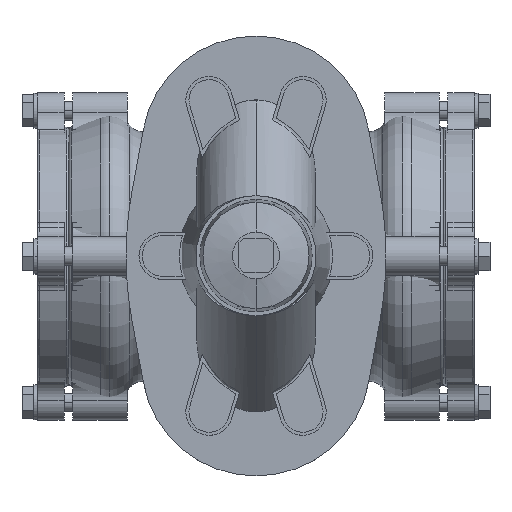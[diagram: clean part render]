
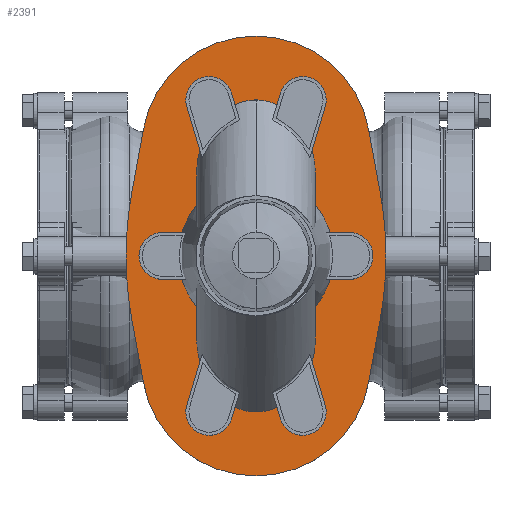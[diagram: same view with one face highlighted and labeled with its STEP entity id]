
A CAD part, top view. The second image highlights one B-rep face of the part: STEP entity #2391.
In plain terms, the highlighted planar face has unit normal (0, 0, 1).
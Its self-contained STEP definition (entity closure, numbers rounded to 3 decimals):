
#2391=ADVANCED_FACE('',(#4706),#4707,.T.);
#4706=FACE_OUTER_BOUND('',#7650,.T.);
#4707=PLANE('',#7651);
#7650=EDGE_LOOP('',(#11774,#11775,#11776,#11777,#11778,#11779,#11780,#11781,#11782,#11783,#11784,#11785,#11786,#11787));
#7651=AXIS2_PLACEMENT_3D('',#11788,#11789,#11790);
#11774=ORIENTED_EDGE('',*,*,#17170,.F.);
#11775=ORIENTED_EDGE('',*,*,#17171,.F.);
#11776=ORIENTED_EDGE('',*,*,#16215,.F.);
#11777=ORIENTED_EDGE('',*,*,#17172,.F.);
#11778=ORIENTED_EDGE('',*,*,#16119,.F.);
#11779=ORIENTED_EDGE('',*,*,#15984,.F.);
#11780=ORIENTED_EDGE('',*,*,#17136,.F.);
#11781=ORIENTED_EDGE('',*,*,#17173,.F.);
#11782=ORIENTED_EDGE('',*,*,#16313,.F.);
#11783=ORIENTED_EDGE('',*,*,#16829,.F.);
#11784=ORIENTED_EDGE('',*,*,#17023,.F.);
#11785=ORIENTED_EDGE('',*,*,#16669,.F.);
#11786=ORIENTED_EDGE('',*,*,#16280,.F.);
#11787=ORIENTED_EDGE('',*,*,#17174,.F.);
#11788=CARTESIAN_POINT('',(45.,0.,198.0));
#11789=DIRECTION('',(0.0,0.0,1.0));
#11790=DIRECTION('',(1.0,0.0,0.0));
#15984=EDGE_CURVE('',#18755,#18751,#18757,.T.);
#16119=EDGE_CURVE('',#18751,#18988,#18989,.T.);
#16215=EDGE_CURVE('',#19148,#19150,#19151,.T.);
#16280=EDGE_CURVE('',#19263,#19258,#19265,.T.);
#16313=EDGE_CURVE('',#19319,#19320,#19321,.T.);
#16669=EDGE_CURVE('',#19258,#19889,#19890,.T.);
#16829=EDGE_CURVE('',#20146,#19319,#20149,.T.);
#17023=EDGE_CURVE('',#19889,#20146,#20430,.T.);
#17136=EDGE_CURVE('',#20591,#18755,#20592,.T.);
#17170=EDGE_CURVE('',#20642,#20643,#20644,.T.);
#17171=EDGE_CURVE('',#19150,#20642,#20645,.T.);
#17172=EDGE_CURVE('',#18988,#19148,#20646,.T.);
#17173=EDGE_CURVE('',#19320,#20591,#20647,.T.);
#17174=EDGE_CURVE('',#20643,#19263,#20648,.T.);
#18751=VERTEX_POINT('',#22598);
#18755=VERTEX_POINT('',#22603);
#18757=CIRCLE('',#22606,222.594);
#18988=VERTEX_POINT('',#22904);
#18989=CIRCLE('',#22905,222.594);
#19148=VERTEX_POINT('',#23106);
#19150=VERTEX_POINT('',#23109);
#19151=CIRCLE('',#23110,222.594);
#19258=VERTEX_POINT('',#23250);
#19263=VERTEX_POINT('',#23256);
#19265=CIRCLE('',#23259,222.594);
#19319=VERTEX_POINT('',#23328);
#19320=VERTEX_POINT('',#23329);
#19321=LINE('',#23330,#23331);
#19889=VERTEX_POINT('',#24058);
#19890=CIRCLE('',#24059,222.594);
#20146=VERTEX_POINT('',#24379);
#20149=CIRCLE('',#24383,222.594);
#20430=CIRCLE('',#24738,222.594);
#20591=VERTEX_POINT('',#24950);
#20592=LINE('',#24951,#24952);
#20642=VERTEX_POINT('',#25016);
#20643=VERTEX_POINT('',#25017);
#20644=CIRCLE('',#25018,73.49);
#20645=LINE('',#25019,#25020);
#20646=CIRCLE('',#25021,222.594);
#20647=CIRCLE('',#25022,73.49);
#20648=LINE('',#25023,#25024);
#22598=CARTESIAN_POINT('',(128.258,0.594,198.0));
#22603=CARTESIAN_POINT('',(124.621,40.665,198.0));
#22606=AXIS2_PLACEMENT_3D('',#27071,#27072,#27073);
#22904=CARTESIAN_POINT('',(128.257,0.,198.0));
#22905=AXIS2_PLACEMENT_3D('',#27252,#27253,#27254);
#23106=CARTESIAN_POINT('',(128.258,-0.594,198.0));
#23109=CARTESIAN_POINT('',(124.621,-40.665,198.0));
#23110=AXIS2_PLACEMENT_3D('',#27394,#27395,#27396);
#23250=CARTESIAN_POINT('',(-38.258,-0.593,198.0));
#23256=CARTESIAN_POINT('',(-34.622,-40.665,198.0));
#23259=AXIS2_PLACEMENT_3D('',#27483,#27484,#27485);
#23328=CARTESIAN_POINT('',(-34.622,40.665,198.0));
#23329=CARTESIAN_POINT('',(-27.29,80.73,198.0));
#23330=CARTESIAN_POINT('',(-27.29,80.73,198.0));
#23331=VECTOR('',#27528,1.0);
#24058=CARTESIAN_POINT('',(-38.258,0.001,198.0));
#24059=AXIS2_PLACEMENT_3D('',#28006,#28007,#28008);
#24379=CARTESIAN_POINT('',(-38.258,0.593,198.0));
#24383=AXIS2_PLACEMENT_3D('',#28248,#28249,#28250);
#24738=AXIS2_PLACEMENT_3D('',#28526,#28527,#28528);
#24950=CARTESIAN_POINT('',(117.289,80.73,198.0));
#24951=CARTESIAN_POINT('',(124.621,40.665,198.0));
#24952=VECTOR('',#28661,1.0);
#25016=CARTESIAN_POINT('',(117.289,-80.73,198.0));
#25017=CARTESIAN_POINT('',(-27.29,-80.73,198.0));
#25018=AXIS2_PLACEMENT_3D('',#28703,#28704,#28705);
#25019=CARTESIAN_POINT('',(117.289,-80.73,198.0));
#25020=VECTOR('',#28706,1.0);
#25021=AXIS2_PLACEMENT_3D('',#28707,#28708,#28709);
#25022=AXIS2_PLACEMENT_3D('',#28710,#28711,#28712);
#25023=CARTESIAN_POINT('',(-34.622,-40.665,198.0));
#25024=VECTOR('',#28713,1.0);
#27071=CARTESIAN_POINT('',(-94.336,0.594,198.0));
#27072=DIRECTION('',(0.0,0.0,-1.0));
#27073=DIRECTION('',(1.0,0.0,0.0));
#27252=CARTESIAN_POINT('',(-94.336,0.594,198.0));
#27253=DIRECTION('',(0.0,0.0,-1.0));
#27254=DIRECTION('',(1.0,0.0,0.0));
#27394=CARTESIAN_POINT('',(-94.336,-0.594,198.0));
#27395=DIRECTION('',(0.0,0.0,-1.0));
#27396=DIRECTION('',(1.0,0.0,0.0));
#27483=CARTESIAN_POINT('',(184.336,-0.593,198.0));
#27484=DIRECTION('',(0.0,0.0,-1.0));
#27485=DIRECTION('',(1.0,0.0,0.0));
#27528=DIRECTION('',(0.18,0.984,0.0));
#28006=CARTESIAN_POINT('',(184.336,-0.593,198.0));
#28007=DIRECTION('',(0.0,0.0,-1.0));
#28008=DIRECTION('',(1.0,0.0,0.0));
#28248=CARTESIAN_POINT('',(184.336,0.593,198.0));
#28249=DIRECTION('',(0.0,0.0,-1.0));
#28250=DIRECTION('',(1.0,0.0,0.0));
#28526=CARTESIAN_POINT('',(184.336,0.593,198.0));
#28527=DIRECTION('',(0.0,0.0,-1.0));
#28528=DIRECTION('',(1.0,0.0,0.0));
#28661=DIRECTION('',(0.18,-0.984,0.0));
#28703=CARTESIAN_POINT('',(45.,-67.5,198.0));
#28704=DIRECTION('',(0.0,0.0,-1.0));
#28705=DIRECTION('',(1.0,0.0,0.0));
#28706=DIRECTION('',(-0.18,-0.984,-0.0));
#28707=CARTESIAN_POINT('',(-94.336,-0.594,198.0));
#28708=DIRECTION('',(0.0,0.0,-1.0));
#28709=DIRECTION('',(1.0,0.0,0.0));
#28710=CARTESIAN_POINT('',(45.,67.5,198.0));
#28711=DIRECTION('',(0.0,0.0,-1.0));
#28712=DIRECTION('',(1.0,0.0,0.0));
#28713=DIRECTION('',(-0.18,0.984,0.0));
